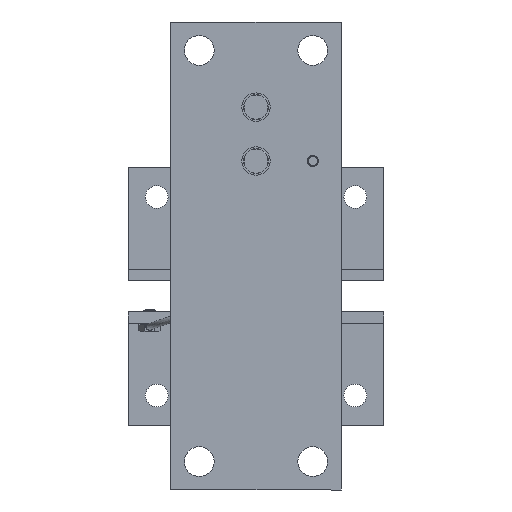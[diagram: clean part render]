
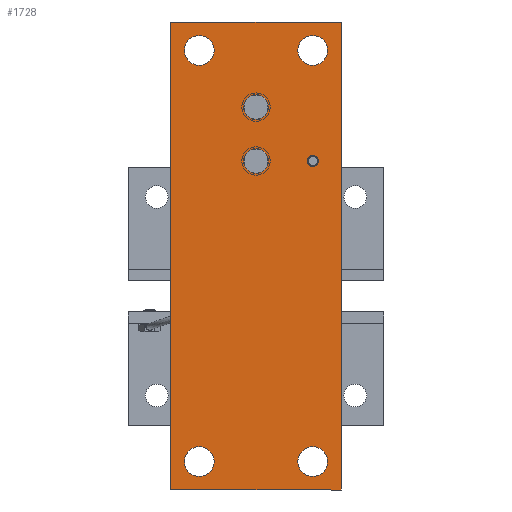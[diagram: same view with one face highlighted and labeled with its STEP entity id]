
A CAD part, front view. The second image highlights one B-rep face of the part: STEP entity #1728.
In plain terms, the highlighted planar face has unit normal (0, -1, 0) as drawn and (0, 0, -1) by its records, which use the part's own axes.
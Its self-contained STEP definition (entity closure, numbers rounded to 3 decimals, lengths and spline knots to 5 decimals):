
#1728=ADVANCED_FACE('0:3889',(#2937,#2938,#2939,#2940,#2941,#2942,#2943,#2944),#2945,.F.);
#2937=FACE_OUTER_BOUND('',#10230,.T.);
#2938=FACE_BOUND('',#10231,.T.);
#2939=FACE_BOUND('',#10232,.T.);
#2940=FACE_BOUND('',#10233,.T.);
#2941=FACE_BOUND('',#10234,.T.);
#2942=FACE_BOUND('',#10235,.T.);
#2943=FACE_BOUND('',#10236,.T.);
#2944=FACE_BOUND('',#10237,.T.);
#2945=PLANE('',#10238);
#10230=EDGE_LOOP('',(#14198,#14199,#14200,#14201));
#10231=EDGE_LOOP('',(#14202,#14203));
#10232=EDGE_LOOP('',(#14204,#14205));
#10233=EDGE_LOOP('',(#14206,#14207));
#10234=EDGE_LOOP('',(#14208,#14209));
#10235=EDGE_LOOP('',(#14210,#14211));
#10236=EDGE_LOOP('',(#14212,#14213));
#10237=EDGE_LOOP('',(#14214,#14215));
#10238=AXIS2_PLACEMENT_3D('',#14216,#14217,#14218);
#14198=ORIENTED_EDGE('',*,*,#15613,.F.);
#14199=ORIENTED_EDGE('',*,*,#15614,.F.);
#14200=ORIENTED_EDGE('',*,*,#15615,.F.);
#14201=ORIENTED_EDGE('',*,*,#15616,.F.);
#14202=ORIENTED_EDGE('',*,*,#15568,.T.);
#14203=ORIENTED_EDGE('',*,*,#15608,.T.);
#14204=ORIENTED_EDGE('',*,*,#15572,.T.);
#14205=ORIENTED_EDGE('',*,*,#15606,.T.);
#14206=ORIENTED_EDGE('',*,*,#15576,.T.);
#14207=ORIENTED_EDGE('',*,*,#15604,.T.);
#14208=ORIENTED_EDGE('',*,*,#15599,.F.);
#14209=ORIENTED_EDGE('',*,*,#15586,.F.);
#14210=ORIENTED_EDGE('',*,*,#15595,.F.);
#14211=ORIENTED_EDGE('',*,*,#15594,.F.);
#14212=ORIENTED_EDGE('',*,*,#15597,.F.);
#14213=ORIENTED_EDGE('',*,*,#15590,.F.);
#14214=ORIENTED_EDGE('',*,*,#15601,.F.);
#14215=ORIENTED_EDGE('',*,*,#15582,.F.);
#14216=CARTESIAN_POINT('',(0.0,0.0,0.0));
#14217=DIRECTION('',(0.0,0.0,1.0));
#14218=DIRECTION('',(1.0,0.0,0.0));
#15568=EDGE_CURVE('0:3943',#17738,#17735,#17739,.T.);
#15572=EDGE_CURVE('0:3937',#17746,#17743,#17747,.T.);
#15576=EDGE_CURVE('0:3931',#17754,#17751,#17755,.T.);
#15582=EDGE_CURVE('0:3922',#17764,#17760,#17766,.T.);
#15586=EDGE_CURVE('0:3916',#17772,#17768,#17774,.T.);
#15590=EDGE_CURVE('0:3910',#17780,#17776,#17782,.T.);
#15594=EDGE_CURVE('0:3904',#17788,#17784,#17790,.T.);
#15595=EDGE_CURVE('0:3904',#17784,#17788,#17791,.T.);
#15597=EDGE_CURVE('0:3910',#17776,#17780,#17793,.T.);
#15599=EDGE_CURVE('0:3916',#17768,#17772,#17795,.T.);
#15601=EDGE_CURVE('0:3922',#17760,#17764,#17797,.T.);
#15604=EDGE_CURVE('0:3931',#17751,#17754,#17800,.T.);
#15606=EDGE_CURVE('0:3937',#17743,#17746,#17802,.T.);
#15608=EDGE_CURVE('0:3943',#17735,#17738,#17804,.T.);
#15613=EDGE_CURVE('0:3958',#17813,#17814,#17815,.T.);
#15614=EDGE_CURVE('0:3961',#17816,#17813,#17817,.T.);
#15615=EDGE_CURVE('0:3964',#17818,#17816,#17819,.T.);
#15616=EDGE_CURVE('0:3967',#17814,#17818,#17820,.T.);
#17735=VERTEX_POINT('',#22001);
#17738=VERTEX_POINT('',#22005);
#17739=CIRCLE('',#22006,0.00875);
#17743=VERTEX_POINT('',#22011);
#17746=VERTEX_POINT('',#22015);
#17747=CIRCLE('',#22016,0.00875);
#17751=VERTEX_POINT('',#22021);
#17754=VERTEX_POINT('',#22025);
#17755=CIRCLE('',#22026,0.0034);
#17760=VERTEX_POINT('',#22032);
#17764=VERTEX_POINT('',#22037);
#17766=CIRCLE('',#22040,0.0105);
#17768=VERTEX_POINT('',#22042);
#17772=VERTEX_POINT('',#22047);
#17774=CIRCLE('',#22050,0.0105);
#17776=VERTEX_POINT('',#22052);
#17780=VERTEX_POINT('',#22057);
#17782=CIRCLE('',#22060,0.0105);
#17784=VERTEX_POINT('',#22062);
#17788=VERTEX_POINT('',#22067);
#17790=CIRCLE('',#22070,0.0105);
#17791=CIRCLE('',#22071,0.0105);
#17793=CIRCLE('',#22073,0.0105);
#17795=CIRCLE('',#22075,0.0105);
#17797=CIRCLE('',#22077,0.0105);
#17800=CIRCLE('',#22080,0.0034);
#17802=CIRCLE('',#22082,0.00875);
#17804=CIRCLE('',#22084,0.00875);
#17813=VERTEX_POINT('',#22097);
#17814=VERTEX_POINT('',#22098);
#17815=LINE('',#22099,#22100);
#17816=VERTEX_POINT('',#22101);
#17817=LINE('',#22102,#22103);
#17818=VERTEX_POINT('',#22104);
#17819=LINE('',#22105,#22106);
#17820=LINE('',#22107,#22108);
#22001=CARTESIAN_POINT('',(-0.07575,0.,0.0));
#22005=CARTESIAN_POINT('',(-0.05825,0.,0.0));
#22006=AXIS2_PLACEMENT_3D('',#24217,#24218,#24219);
#22011=CARTESIAN_POINT('',(-0.11375,0.,0.0));
#22015=CARTESIAN_POINT('',(-0.09625,0.,0.0));
#22016=AXIS2_PLACEMENT_3D('',#24225,#24226,#24227);
#22021=CARTESIAN_POINT('',(-0.0704,-0.04,0.0));
#22025=CARTESIAN_POINT('',(-0.0636,-0.04,0.0));
#22026=AXIS2_PLACEMENT_3D('',#24233,#24234,#24235);
#22032=CARTESIAN_POINT('',(0.1555,-0.04,0.0));
#22037=CARTESIAN_POINT('',(0.1345,-0.04,0.0));
#22040=AXIS2_PLACEMENT_3D('',#24245,#24246,#24247);
#22042=CARTESIAN_POINT('',(0.1555,0.04,0.0));
#22047=CARTESIAN_POINT('',(0.1345,0.04,0.0));
#22050=AXIS2_PLACEMENT_3D('',#24253,#24254,#24255);
#22052=CARTESIAN_POINT('',(-0.1345,-0.04,0.0));
#22057=CARTESIAN_POINT('',(-0.1555,-0.04,0.0));
#22060=AXIS2_PLACEMENT_3D('',#24261,#24262,#24263);
#22062=CARTESIAN_POINT('',(-0.1345,0.04,0.0));
#22067=CARTESIAN_POINT('',(-0.1555,0.04,0.0));
#22070=AXIS2_PLACEMENT_3D('',#24269,#24270,#24271);
#22071=AXIS2_PLACEMENT_3D('',#24272,#24273,#24274);
#22073=AXIS2_PLACEMENT_3D('',#24278,#24279,#24280);
#22075=AXIS2_PLACEMENT_3D('',#24284,#24285,#24286);
#22077=AXIS2_PLACEMENT_3D('',#24290,#24291,#24292);
#22080=AXIS2_PLACEMENT_3D('',#24299,#24300,#24301);
#22082=AXIS2_PLACEMENT_3D('',#24305,#24306,#24307);
#22084=AXIS2_PLACEMENT_3D('',#24311,#24312,#24313);
#22097=CARTESIAN_POINT('',(0.165,-0.06,0.0));
#22098=CARTESIAN_POINT('',(0.165,0.06,0.0));
#22099=CARTESIAN_POINT('',(0.165,-0.06,0.0));
#22100=VECTOR('',#24318,1.0);
#22101=CARTESIAN_POINT('',(-0.165,-0.06,0.0));
#22102=CARTESIAN_POINT('',(-0.165,-0.06,0.0));
#22103=VECTOR('',#24319,1.0);
#22104=CARTESIAN_POINT('',(-0.165,0.06,0.0));
#22105=CARTESIAN_POINT('',(-0.165,0.06,0.0));
#22106=VECTOR('',#24320,1.0);
#22107=CARTESIAN_POINT('',(0.165,0.06,0.0));
#22108=VECTOR('',#24321,1.0);
#24217=CARTESIAN_POINT('',(-0.067,0.0,0.0));
#24218=DIRECTION('',(0.0,0.0,1.0));
#24219=DIRECTION('',(-1.0,0.0,0.0));
#24225=CARTESIAN_POINT('',(-0.105,0.0,0.0));
#24226=DIRECTION('',(0.0,0.0,1.0));
#24227=DIRECTION('',(-1.0,0.0,0.0));
#24233=CARTESIAN_POINT('',(-0.067,-0.04,0.0));
#24234=DIRECTION('',(0.0,0.0,1.0));
#24235=DIRECTION('',(-1.0,0.0,0.0));
#24245=CARTESIAN_POINT('',(0.145,-0.04,0.0));
#24246=DIRECTION('',(0.0,0.0,-1.0));
#24247=DIRECTION('',(1.0,0.0,0.0));
#24253=CARTESIAN_POINT('',(0.145,0.04,0.0));
#24254=DIRECTION('',(0.0,0.0,-1.0));
#24255=DIRECTION('',(1.0,0.0,0.0));
#24261=CARTESIAN_POINT('',(-0.145,-0.04,0.0));
#24262=DIRECTION('',(0.0,0.0,-1.0));
#24263=DIRECTION('',(1.0,0.0,0.0));
#24269=CARTESIAN_POINT('',(-0.145,0.04,0.0));
#24270=DIRECTION('',(0.0,0.0,-1.0));
#24271=DIRECTION('',(1.0,0.0,0.0));
#24272=CARTESIAN_POINT('',(-0.145,0.04,0.0));
#24273=DIRECTION('',(0.0,0.0,-1.0));
#24274=DIRECTION('',(1.0,0.0,0.0));
#24278=CARTESIAN_POINT('',(-0.145,-0.04,0.0));
#24279=DIRECTION('',(0.0,0.0,-1.0));
#24280=DIRECTION('',(1.0,0.0,0.0));
#24284=CARTESIAN_POINT('',(0.145,0.04,0.0));
#24285=DIRECTION('',(0.0,0.0,-1.0));
#24286=DIRECTION('',(1.0,0.0,0.0));
#24290=CARTESIAN_POINT('',(0.145,-0.04,0.0));
#24291=DIRECTION('',(0.0,0.0,-1.0));
#24292=DIRECTION('',(1.0,0.0,0.0));
#24299=CARTESIAN_POINT('',(-0.067,-0.04,0.0));
#24300=DIRECTION('',(0.0,0.0,1.0));
#24301=DIRECTION('',(-1.0,0.0,0.0));
#24305=CARTESIAN_POINT('',(-0.105,0.0,0.0));
#24306=DIRECTION('',(0.0,0.0,1.0));
#24307=DIRECTION('',(-1.0,0.0,0.0));
#24311=CARTESIAN_POINT('',(-0.067,0.0,0.0));
#24312=DIRECTION('',(0.0,0.0,1.0));
#24313=DIRECTION('',(-1.0,0.0,0.0));
#24318=DIRECTION('',(0.0,1.0,0.0));
#24319=DIRECTION('',(1.0,0.0,0.0));
#24320=DIRECTION('',(0.0,-1.0,0.0));
#24321=DIRECTION('',(-1.0,0.0,0.0));
